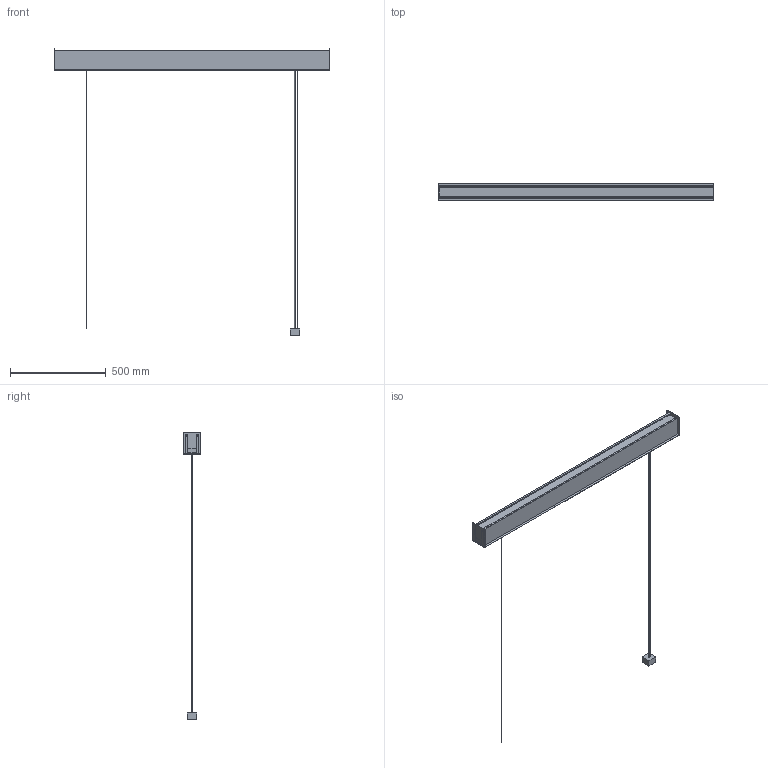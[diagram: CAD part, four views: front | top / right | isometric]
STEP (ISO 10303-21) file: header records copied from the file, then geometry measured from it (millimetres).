
FILE_DESCRIPTION (( 'STEP AP203' ), '1' );
FILE_NAME ('Belka zwieszana 1440mm.STEP', '2020-07-12T21:22:56', ( '' ), ( '' ), 'SwSTEP 2.0', 'SolidWorks 2012', '' );
FILE_SCHEMA (( 'CONFIG_CONTROL_DESIGN' ));
Length unit declared in the file: millimetre
Products named in the file (1): Belka zwieszana 1440mm
Bounding box: 1440 x 90 x 1500 mm (x, y, z)
Volume: 4336529.2 mm3; surface area: 1129992.6 mm2
Topology: 1 solids, 1 shells, 94 faces, 248 edges, 164 vertices
Faces by surface type: plane 54, cylinder 40
Entity records: 3061 total; most frequent: DIRECTION 518, CARTESIAN_POINT 507, ORIENTED_EDGE 496, EDGE_CURVE 248, AXIS2_PLACEMENT_3D 175, VECTOR 168, LINE 168, VERTEX_POINT 164
